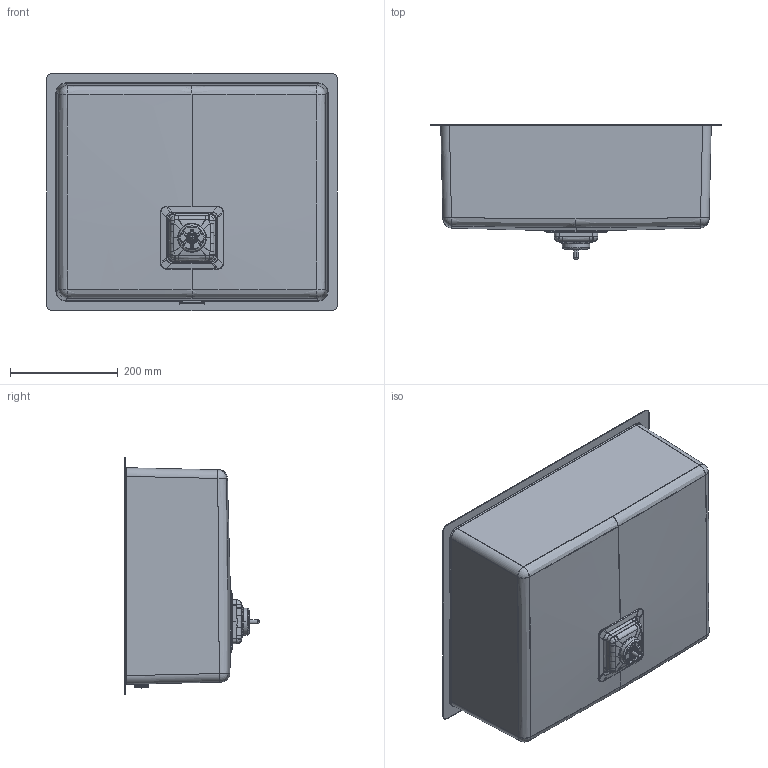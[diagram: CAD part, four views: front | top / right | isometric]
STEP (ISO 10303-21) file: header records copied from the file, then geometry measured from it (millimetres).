
FILE_DESCRIPTION((''),'2;1');
FILE_NAME('ASM0001_ASM','2018-12-21T',('crodriguez'),('TEKA INDUSTRIAL, S.A.'),'CREO PARAMETRIC BY PTC INC, 2015200','CREO PARAMETRIC BY PTC INC, 2015200','');
FILE_SCHEMA(('CONFIG_CONTROL_DESIGN'));
Products named in the file (8): CUBETA_R15_50X40_D_CUAD; COPETE_CUADRADO; CESTILLA_CUADRADA; VALVULA_CUADRADA_ASM; REB_MARCO; REB_EMBELLECEDOR; REB_CONJ_MARCO_EMBELLECEDOR_ASM; ASM0001_ASM
Assembly tree (7 placements, depth 3):
  ASM0001_ASM
    CUBETA_R15_50X40_D_CUAD
    VALVULA_CUADRADA_ASM
      COPETE_CUADRADO
      CESTILLA_CUADRADA
    REB_CONJ_MARCO_EMBELLECEDOR_ASM
      REB_MARCO
      REB_EMBELLECEDOR
Bounding box: 540 x 249.5 x 440 mm (x, y, z)
Volume: 569335.9 mm3; surface area: 1161163.8 mm2
Topology: 4 solids, 6 shells, 1181 faces, 3142 edges, 1940 vertices
Faces by surface type: bspline 329, cylinder 285, plane 267, torus 132, cone 106, sphere 38, extrusion 24
Entity records: 59751 total; most frequent: CARTESIAN_POINT 32208, ORIENTED_EDGE 6202, DIRECTION 5099, EDGE_CURVE 3110, AXIS2_PLACEMENT_3D 1975, VERTEX_POINT 1940, EDGE_LOOP 1232, FACE_OUTER_BOUND 1181
